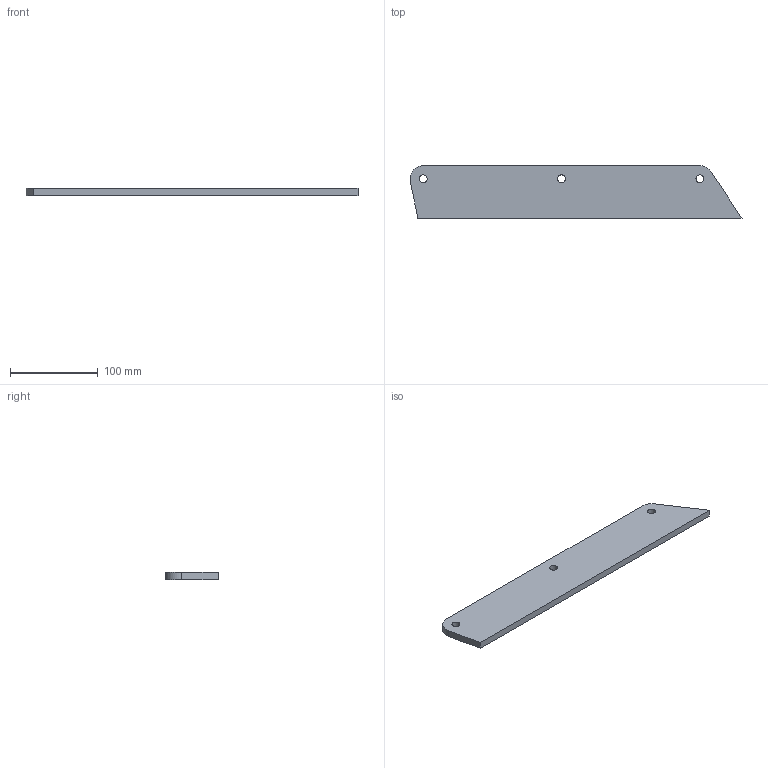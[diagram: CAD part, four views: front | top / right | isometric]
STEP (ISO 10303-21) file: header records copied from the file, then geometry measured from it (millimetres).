
FILE_DESCRIPTION(/* description */ (''),/* implementation_level */ '2;1');
FILE_NAME(/* name */ 'Pos136-Plaatwerk D= 8-S235JRG2-3st',/* time_stamp */ '2024-08-06T13:37:44+02:00',/* author */ (''),/* organization */ (''),/* preprocessor_version */ 'ST-DEVELOPER v16.5',/* originating_system */ 'HiCAD 2024 2901.2 Build 361',/* authorisation */ '');
FILE_SCHEMA (('AUTOMOTIVE_DESIGN { 1 0 10303 214 1 1 1 1 }'));
Length unit declared in the file: millimetre
Products named in the file (1): Pos136-Plaatwerk D= 8-S235JRG2-3st
Bounding box: 377.89 x 60 x 8 mm (x, y, z)
Volume: 168249.7 mm3; surface area: 49397.4 mm2
Topology: 1 solids, 1 shells, 11 faces, 30 edges, 21 vertices
Faces by surface type: plane 6, cylinder 5
Full cylindrical faces by diameter (mm): 9 x3
Entity records: 586 total; most frequent: DIRECTION 56, CARTESIAN_POINT 53, PRESENTATION_STYLE_ASSIGNMENT 49, COLOUR_RGB 49, DRAUGHTING_PRE_DEFINED_CURVE_FONT 48, CURVE_STYLE 48, OVER_RIDING_STYLED_ITEM 48, ORIENTED_EDGE 48
